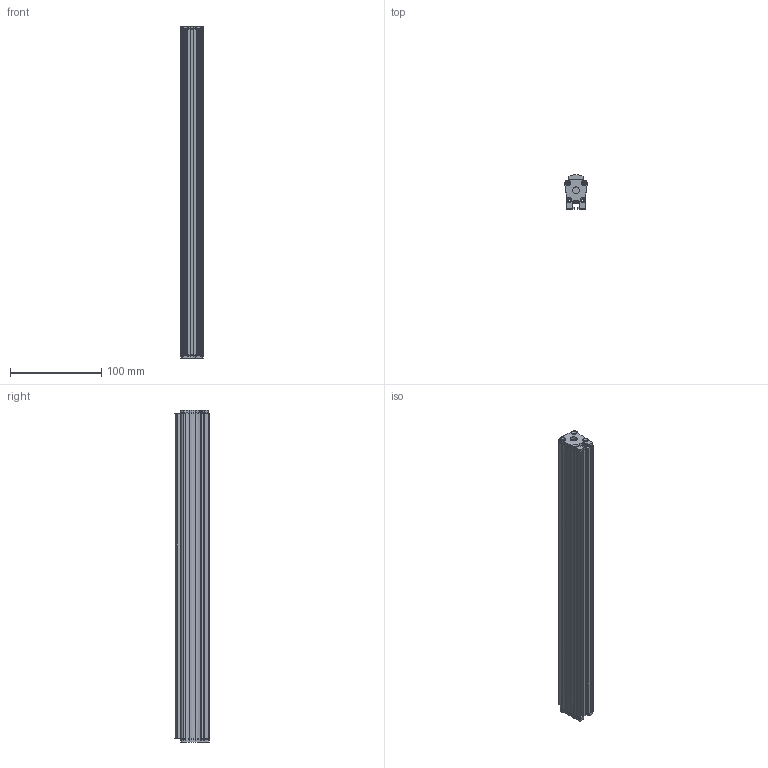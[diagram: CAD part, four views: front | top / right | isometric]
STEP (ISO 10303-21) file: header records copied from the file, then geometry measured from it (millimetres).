
FILE_DESCRIPTION(('STEP AP214'),'1');
FILE_NAME('lin+op 335.stp','2021-02-15T14:43:29',('Blanc'),('Phlox'),'Spatial InterOp 3D',' ',' ');
FILE_SCHEMA(('AUTOMOTIVE_DESIGN { 1 0 10303 214 1 1 1 1 }'));
Length unit declared in the file: inch
Products named in the file (1): Pièce_83634808
Bounding box: 24.54 x 37.28 x 362.93 mm (x, y, z)
Volume: 133285.5 mm3; surface area: 110914.6 mm2
Topology: 6 solids, 6 shells, 380 faces, 1090 edges, 718 vertices
Faces by surface type: cylinder 211, plane 103, bspline 36, cone 16, extrusion 14
Entity records: 25834 total; most frequent: CARTESIAN_POINT 7848, ORIENTED_EDGE 2180, DIRECTION 2086, STYLED_ITEM 1345, PRESENTATION_STYLE_ASSIGNMENT 1345, COLOUR_RGB 1345, EDGE_CURVE 1090, CURVE_STYLE 959
